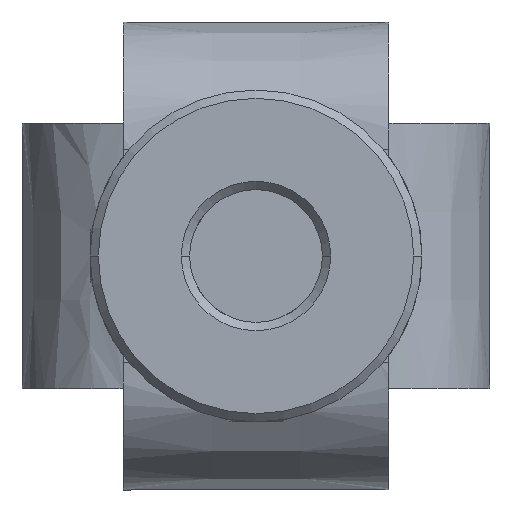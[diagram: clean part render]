
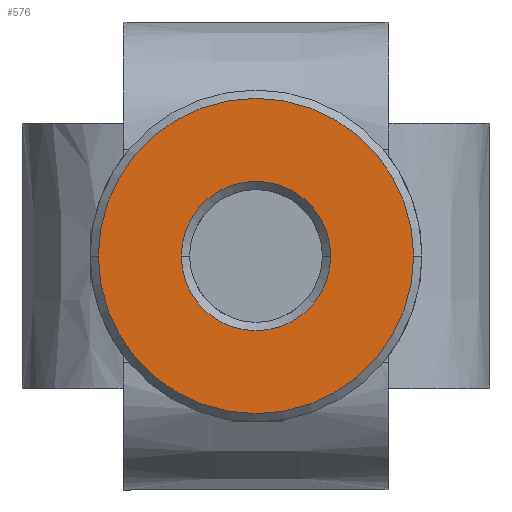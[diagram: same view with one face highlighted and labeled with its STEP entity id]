
A CAD part, front view. The second image highlights one B-rep face of the part: STEP entity #576.
In plain terms, the highlighted planar face has unit normal (0, -1, 0).
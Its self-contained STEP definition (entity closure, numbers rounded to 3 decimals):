
#341 = DIRECTION ( 'NONE',  ( 0., 1., 0. ) ) ;
#389 = VERTEX_POINT ( 'NONE', #4357 ) ;
#445 = FACE_OUTER_BOUND ( 'NONE', #1079, .T. ) ;
#522 = EDGE_CURVE ( 'NONE', #3329, #5238, #5201, .T. ) ;
#576 = ADVANCED_FACE ( 'NONE', ( #1359, #445 ), #3306, .T. ) ;
#817 = AXIS2_PLACEMENT_3D ( 'NONE', #6495, #8333, #5084 ) ;
#968 = CIRCLE ( 'NONE', #3567, 9.5 ) ;
#1079 = EDGE_LOOP ( 'NONE', ( #5636, #6128 ) ) ;
#1137 = CARTESIAN_POINT ( 'NONE',  ( 9.5, -35.24, 0. ) ) ;
#1209 = DIRECTION ( 'NONE',  ( 0., -1., 0. ) ) ;
#1359 = FACE_BOUND ( 'NONE', #6977, .T. ) ;
#1868 = EDGE_CURVE ( 'NONE', #389, #8005, #1871, .T. ) ;
#1871 = CIRCLE ( 'NONE', #5081, 4.5 ) ;
#2864 = DIRECTION ( 'NONE',  ( -1., 0., 0. ) ) ;
#3145 = CARTESIAN_POINT ( 'NONE',  ( -4.5, -35.24, 0. ) ) ;
#3275 = CIRCLE ( 'NONE', #5590, 4.5 ) ;
#3306 = PLANE ( 'NONE',  #6786 ) ;
#3329 = VERTEX_POINT ( 'NONE', #6835 ) ;
#3567 = AXIS2_PLACEMENT_3D ( 'NONE', #5835, #1209, #3868 ) ;
#3748 = EDGE_CURVE ( 'NONE', #8005, #389, #3275, .T. ) ;
#3868 = DIRECTION ( 'NONE',  ( -1., 0., 0. ) ) ;
#4357 = CARTESIAN_POINT ( 'NONE',  ( 4.5, -35.24, 0. ) ) ;
#4653 = ORIENTED_EDGE ( 'NONE', *, *, #1868, .T. ) ;
#5081 = AXIS2_PLACEMENT_3D ( 'NONE', #6167, #341, #2864 ) ;
#5084 = DIRECTION ( 'NONE',  ( -1., 0., 0. ) ) ;
#5201 = CIRCLE ( 'NONE', #817, 9.5 ) ;
#5238 = VERTEX_POINT ( 'NONE', #1137 ) ;
#5590 = AXIS2_PLACEMENT_3D ( 'NONE', #7331, #8004, #8084 ) ;
#5636 = ORIENTED_EDGE ( 'NONE', *, *, #6280, .T. ) ;
#5835 = CARTESIAN_POINT ( 'NONE',  ( 0., -35.24, 0. ) ) ;
#5931 = DIRECTION ( 'NONE',  ( -1., 0., 0. ) ) ;
#5994 = CARTESIAN_POINT ( 'NONE',  ( 0., -35.24, 0. ) ) ;
#6128 = ORIENTED_EDGE ( 'NONE', *, *, #522, .T. ) ;
#6167 = CARTESIAN_POINT ( 'NONE',  ( 0., -35.24, 0. ) ) ;
#6280 = EDGE_CURVE ( 'NONE', #5238, #3329, #968, .T. ) ;
#6431 = ORIENTED_EDGE ( 'NONE', *, *, #3748, .T. ) ;
#6495 = CARTESIAN_POINT ( 'NONE',  ( 0., -35.24, 0. ) ) ;
#6786 = AXIS2_PLACEMENT_3D ( 'NONE', #5994, #7175, #5931 ) ;
#6835 = CARTESIAN_POINT ( 'NONE',  ( -9.5, -35.24, 0. ) ) ;
#6977 = EDGE_LOOP ( 'NONE', ( #6431, #4653 ) ) ;
#7175 = DIRECTION ( 'NONE',  ( 0., -1., 0. ) ) ;
#7331 = CARTESIAN_POINT ( 'NONE',  ( 0., -35.24, 0. ) ) ;
#8004 = DIRECTION ( 'NONE',  ( 0., 1., 0. ) ) ;
#8005 = VERTEX_POINT ( 'NONE', #3145 ) ;
#8084 = DIRECTION ( 'NONE',  ( -1., 0., 0. ) ) ;
#8333 = DIRECTION ( 'NONE',  ( 0., -1., 0. ) ) ;
